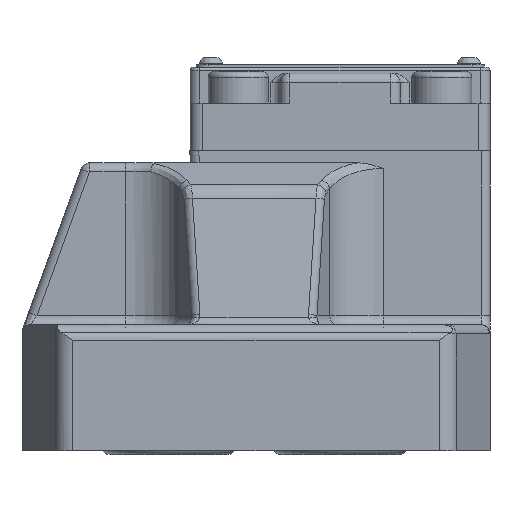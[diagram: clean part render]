
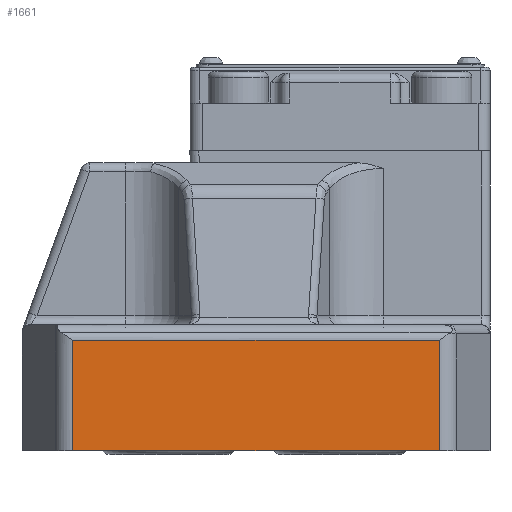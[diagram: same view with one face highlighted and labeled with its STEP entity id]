
A CAD part, front view. The second image highlights one B-rep face of the part: STEP entity #1661.
In plain terms, the highlighted planar face has unit normal (0, -1, 0).
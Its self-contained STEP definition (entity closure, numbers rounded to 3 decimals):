
#974=LINE('',#26729,#1308);
#1018=LINE('',#27112,#1352);
#1019=LINE('',#27114,#1353);
#1020=LINE('',#27116,#1354);
#1308=VECTOR('',#7445,1.);
#1352=VECTOR('',#7595,1.);
#1353=VECTOR('',#7598,1.);
#1354=VECTOR('',#7599,1.);
#1661=ADVANCED_FACE('',(#2127),#1936,.F.);
#1936=PLANE('',#6313);
#2127=FACE_OUTER_BOUND('',#2539,.T.);
#2539=EDGE_LOOP('',(#3627,#3628,#3629,#3630));
#3627=ORIENTED_EDGE('',*,*,#5325,.T.);
#3628=ORIENTED_EDGE('',*,*,#5326,.T.);
#3629=ORIENTED_EDGE('',*,*,#5327,.F.);
#3630=ORIENTED_EDGE('',*,*,#5224,.F.);
#4569=VERTEX_POINT('',#26728);
#4570=VERTEX_POINT('',#26730);
#4659=VERTEX_POINT('',#27111);
#4660=VERTEX_POINT('',#27115);
#5224=EDGE_CURVE('',#4569,#4570,#974,.T.);
#5325=EDGE_CURVE('',#4569,#4659,#1018,.T.);
#5326=EDGE_CURVE('',#4659,#4660,#1019,.T.);
#5327=EDGE_CURVE('',#4570,#4660,#1020,.T.);
#6313=AXIS2_PLACEMENT_3D('',#27117,#7600,#7601);
#7445=DIRECTION('',(-1.,0.,0.));
#7595=DIRECTION('',(0.,0.,1.));
#7598=DIRECTION('',(-1.,0.,0.));
#7599=DIRECTION('',(0.,0.,1.));
#7600=DIRECTION('',(0.,1.,0.));
#7601=DIRECTION('',(0.,0.,-1.));
#26728=CARTESIAN_POINT('',(532.013,338.114,0.));
#26729=CARTESIAN_POINT('',(532.013,338.114,0.));
#26730=CARTESIAN_POINT('',(470.953,338.114,0.));
#27111=CARTESIAN_POINT('',(532.013,338.114,18.4));
#27112=CARTESIAN_POINT('',(532.013,338.114,0.));
#27114=CARTESIAN_POINT('',(666.335,338.114,18.4));
#27115=CARTESIAN_POINT('',(470.953,338.114,18.4));
#27116=CARTESIAN_POINT('',(470.953,338.114,0.));
#27117=CARTESIAN_POINT('',(532.013,338.114,0.));
